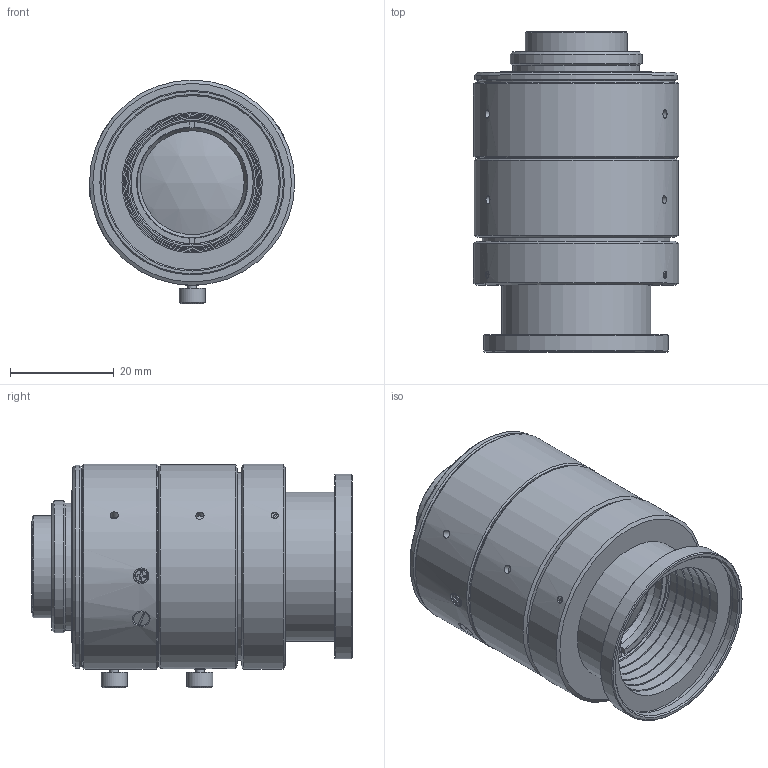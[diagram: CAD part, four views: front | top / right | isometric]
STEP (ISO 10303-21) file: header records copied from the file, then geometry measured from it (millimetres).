
FILE_DESCRIPTION(/* description */ ('Unknown'),/* implementation_level */ '2;1');
FILE_NAME(/* name */ 'V3528-MPY_210217',/* time_stamp */ '2021-02-17T15:55:29+09:00',/* author */ ('Unknown'),/* organization */ ('Unknown'),/* preprocessor_version */ 'ST-DEVELOPER v16.7',/* originating_system */ 'DEX',/* authorisation */ $);
FILE_SCHEMA (('AUTOMOTIVE_DESIGN {1 0 10303 214 3 1 1}'));
Length unit declared in the file: millimetre
Products named in the file (1): Reference 3D-drawing of V3528-MPY_35mm
Bounding box: 39.55 x 61.6 x 43.09 mm (x, y, z)
Volume: 52379.7 mm3; surface area: 12752.3 mm2
Topology: 1 solids, 5 shells, 307 faces, 757 edges, 506 vertices
Faces by surface type: plane 182, cylinder 81, cone 40, sphere 2, torus 2
Full cylindrical faces by diameter (mm): 1.321 x6, 1.567 x4, 1.7 x5, 1.8 x3, 2 x1, 2.5 x2, 2.8 x1, 3 x5, 3.4 x1, 3.5 x3, 4.999 x2, 14.5 x1, 15.2 x1, 19.6 x1, 20 x1, 21.2 x1, 23.5 x1, 24.4 x1, 24.711 x1, 25.169 x1, 25.4 x1, 25.627 x1, 26.085 x1, 26.542 x1, 27 x1, 28.7 x1, 33.5 x1, 34 x1, 35.5 x2, 36.1 x1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
Entity records: 10477 total; most frequent: CARTESIAN_POINT 1660, DIRECTION 1366, ORIENTED_EDGE 1212, EDGE_CURVE 606, AXIS2_PLACEMENT_3D 494, EDGE_LOOP 457, FACE_BOUND 457, VERTEX_POINT 451
